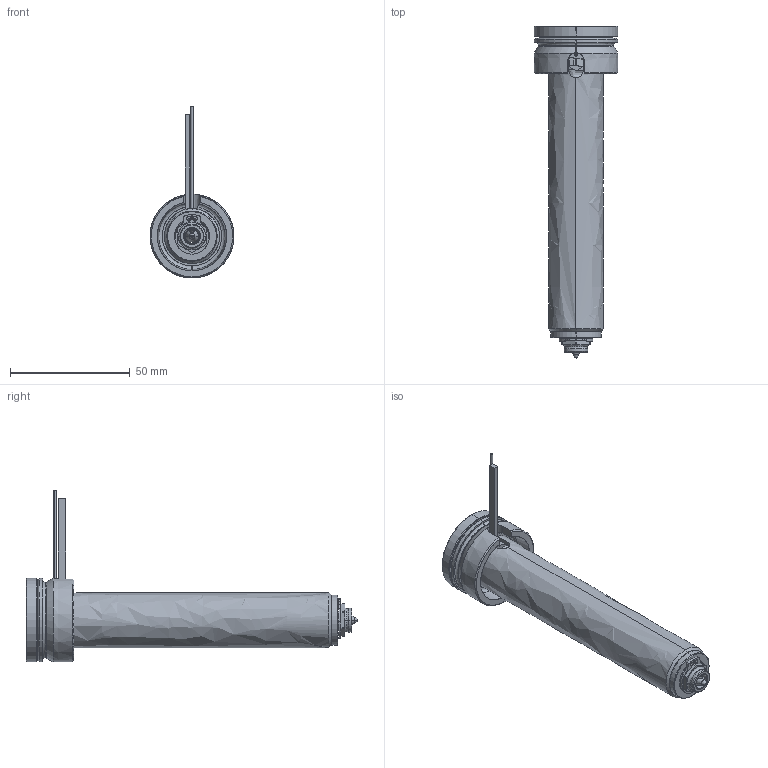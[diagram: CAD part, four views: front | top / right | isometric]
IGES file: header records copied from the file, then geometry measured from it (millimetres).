
Start section: SolidWorks IGES file using analytic representation for surfaces
Global section: file name: C:\Documents and Settings\ws-20\Desktop\TEM\UGEP3053-S-A-0 [Øf-0.90 ØC-7.0].IGS; native system: SolidWorks 2012; preprocessor: SolidWorks 2012; author: ws-20; date: 120402.143534; units: millimetre
Bounding box: 35 x 138.8 x 71.9 mm (x, y, z)
Surface area: 28401.5 mm2 (no closed solid volume)
Topology: 0 solids, 0 shells, 137 faces, 2195 edges, 2195 vertices
Faces by surface type: revolution 85, bspline 52
